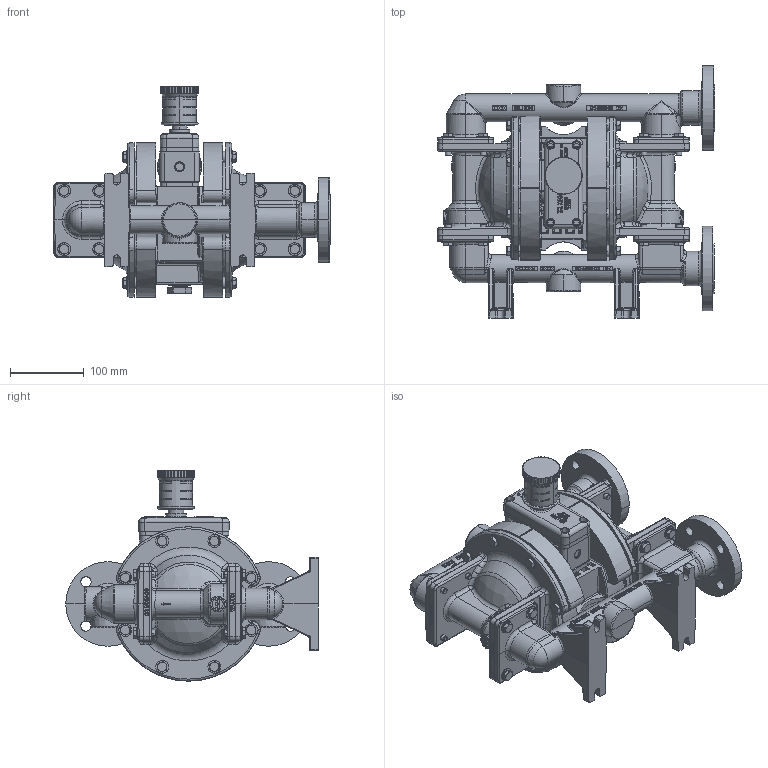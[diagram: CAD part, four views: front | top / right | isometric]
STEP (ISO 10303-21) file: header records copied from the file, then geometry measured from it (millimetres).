
FILE_DESCRIPTION (( 'STEP AP203' ), '1' );
FILE_NAME ('P230_SS_DIN_TOP.STEP', '2026-04-27T09:33:47', ( '' ), ( '' ), 'SwSTEP 2.0', 'SolidWorks 2022', '' );
FILE_SCHEMA (( 'CONFIG_CONTROL_DESIGN' ));
Products named in the file (1): P230_SS_DIN_TOP
Bounding box: 377.63 x 343.54 x 286.81 mm (x, y, z)
Volume: 7118498.7 mm3; surface area: 649310 mm2
Topology: 1 solids, 1 shells, 6663 faces, 17318 edges, 10954 vertices
Faces by surface type: plane 4361, cylinder 1154, bspline 438, cone 382, sphere 203, torus 125
Entity records: 259116 total; most frequent: CARTESIAN_POINT 100041, ORIENTED_EDGE 34600, DIRECTION 30626, EDGE_CURVE 17300, VECTOR 12108, LINE 12108, VERTEX_POINT 10948, AXIS2_PLACEMENT_3D 9259
